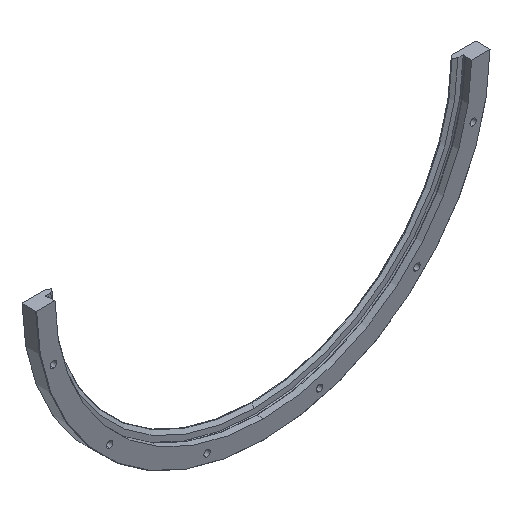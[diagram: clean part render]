
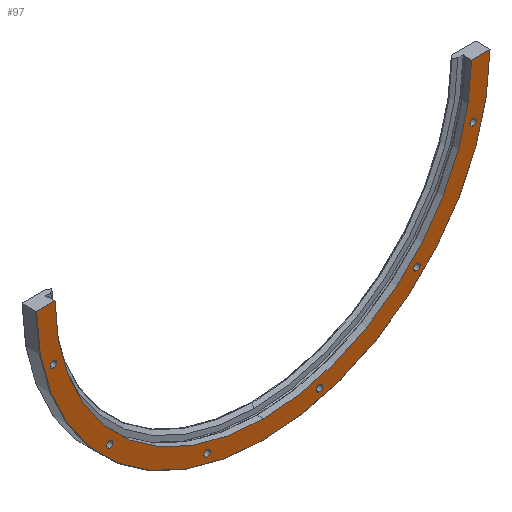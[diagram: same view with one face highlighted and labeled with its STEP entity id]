
A CAD part, isometric view. The second image highlights one B-rep face of the part: STEP entity #97.
In plain terms, the highlighted planar face has unit normal (0, -1, 0).
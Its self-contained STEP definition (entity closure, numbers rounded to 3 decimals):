
#97=ADVANCED_FACE('',(#174,#175,#176,#177,#178,#179,#180),#181,.T.);
#174=FACE_OUTER_BOUND('',#300,.T.);
#175=FACE_BOUND('',#301,.T.);
#176=FACE_BOUND('',#302,.T.);
#177=FACE_BOUND('',#303,.T.);
#178=FACE_BOUND('',#304,.T.);
#179=FACE_BOUND('',#305,.T.);
#180=FACE_BOUND('',#306,.T.);
#181=PLANE('',#307);
#300=EDGE_LOOP('',(#536,#537,#538,#539,#540,#541));
#301=EDGE_LOOP('',(#542,#543));
#302=EDGE_LOOP('',(#544,#545));
#303=EDGE_LOOP('',(#546,#547));
#304=EDGE_LOOP('',(#548,#549));
#305=EDGE_LOOP('',(#550,#551));
#306=EDGE_LOOP('',(#552,#553));
#307=AXIS2_PLACEMENT_3D('',#554,#555,#556);
#536=ORIENTED_EDGE('',*,*,#893,.F.);
#537=ORIENTED_EDGE('',*,*,#829,.T.);
#538=ORIENTED_EDGE('',*,*,#894,.T.);
#539=ORIENTED_EDGE('',*,*,#895,.F.);
#540=ORIENTED_EDGE('',*,*,#896,.F.);
#541=ORIENTED_EDGE('',*,*,#813,.F.);
#542=ORIENTED_EDGE('',*,*,#897,.T.);
#543=ORIENTED_EDGE('',*,*,#842,.T.);
#544=ORIENTED_EDGE('',*,*,#898,.T.);
#545=ORIENTED_EDGE('',*,*,#850,.T.);
#546=ORIENTED_EDGE('',*,*,#899,.T.);
#547=ORIENTED_EDGE('',*,*,#858,.T.);
#548=ORIENTED_EDGE('',*,*,#900,.T.);
#549=ORIENTED_EDGE('',*,*,#882,.T.);
#550=ORIENTED_EDGE('',*,*,#901,.T.);
#551=ORIENTED_EDGE('',*,*,#874,.T.);
#552=ORIENTED_EDGE('',*,*,#902,.T.);
#553=ORIENTED_EDGE('',*,*,#866,.T.);
#554=CARTESIAN_POINT('',(-240.75,-12.325,0.0));
#555=DIRECTION('',(0.0,-1.0,0.0));
#556=DIRECTION('',(0.0,0.0,-1.0));
#813=EDGE_CURVE('',#948,#944,#950,.T.);
#829=EDGE_CURVE('',#980,#977,#981,.T.);
#842=EDGE_CURVE('',#1003,#1004,#1005,.T.);
#850=EDGE_CURVE('',#1019,#1020,#1021,.T.);
#858=EDGE_CURVE('',#1035,#1036,#1037,.T.);
#866=EDGE_CURVE('',#1051,#1052,#1053,.T.);
#874=EDGE_CURVE('',#1067,#1068,#1069,.T.);
#882=EDGE_CURVE('',#1083,#1084,#1085,.T.);
#893=EDGE_CURVE('',#980,#948,#1103,.T.);
#894=EDGE_CURVE('',#977,#1104,#1105,.T.);
#895=EDGE_CURVE('',#1106,#1104,#1107,.T.);
#896=EDGE_CURVE('',#944,#1106,#1108,.T.);
#897=EDGE_CURVE('',#1004,#1003,#1109,.T.);
#898=EDGE_CURVE('',#1020,#1019,#1110,.T.);
#899=EDGE_CURVE('',#1036,#1035,#1111,.T.);
#900=EDGE_CURVE('',#1084,#1083,#1112,.T.);
#901=EDGE_CURVE('',#1068,#1067,#1113,.T.);
#902=EDGE_CURVE('',#1052,#1051,#1114,.T.);
#944=VERTEX_POINT('',#1164);
#948=VERTEX_POINT('',#1169);
#950=CIRCLE('',#1174,240.75);
#977=VERTEX_POINT('',#1214);
#980=VERTEX_POINT('',#1218);
#981=CIRCLE('',#1219,221.25);
#1003=VERTEX_POINT('',#1254);
#1004=VERTEX_POINT('',#1255);
#1005=CIRCLE('',#1256,3.4);
#1019=VERTEX_POINT('',#1274);
#1020=VERTEX_POINT('',#1275);
#1021=CIRCLE('',#1276,3.4);
#1035=VERTEX_POINT('',#1294);
#1036=VERTEX_POINT('',#1295);
#1037=CIRCLE('',#1296,3.4);
#1051=VERTEX_POINT('',#1314);
#1052=VERTEX_POINT('',#1315);
#1053=CIRCLE('',#1316,3.4);
#1067=VERTEX_POINT('',#1334);
#1068=VERTEX_POINT('',#1335);
#1069=CIRCLE('',#1336,3.4);
#1083=VERTEX_POINT('',#1354);
#1084=VERTEX_POINT('',#1355);
#1085=CIRCLE('',#1356,3.4);
#1103=LINE('',#1384,#1385);
#1104=VERTEX_POINT('',#1386);
#1105=CIRCLE('',#1387,221.25);
#1106=VERTEX_POINT('',#1388);
#1107=LINE('',#1389,#1390);
#1108=CIRCLE('',#1391,240.75);
#1109=CIRCLE('',#1392,3.4);
#1110=CIRCLE('',#1393,3.4);
#1111=CIRCLE('',#1394,3.4);
#1112=CIRCLE('',#1395,3.4);
#1113=CIRCLE('',#1396,3.4);
#1114=CIRCLE('',#1397,3.4);
#1164=CARTESIAN_POINT('',(0.,-12.325,-240.75));
#1169=CARTESIAN_POINT('',(240.742,-12.325,-2.0));
#1174=AXIS2_PLACEMENT_3D('',#1476,#1477,#1478);
#1214=CARTESIAN_POINT('',(0.,-12.325,-221.25));
#1218=CARTESIAN_POINT('',(221.241,-12.325,-2.0));
#1219=AXIS2_PLACEMENT_3D('',#1506,#1507,#1508);
#1254=CARTESIAN_POINT('',(222.887,-12.325,-63.122));
#1255=CARTESIAN_POINT('',(222.887,-12.325,-56.322));
#1256=AXIS2_PLACEMENT_3D('',#1533,#1534,#1535);
#1274=CARTESIAN_POINT('',(163.165,-12.325,-166.565));
#1275=CARTESIAN_POINT('',(163.165,-12.325,-159.765));
#1276=AXIS2_PLACEMENT_3D('',#1549,#1550,#1551);
#1294=CARTESIAN_POINT('',(59.722,-12.325,-226.287));
#1295=CARTESIAN_POINT('',(59.722,-12.325,-219.487));
#1296=AXIS2_PLACEMENT_3D('',#1565,#1566,#1567);
#1314=CARTESIAN_POINT('',(-59.722,-12.325,-226.287));
#1315=CARTESIAN_POINT('',(-59.722,-12.325,-219.487));
#1316=AXIS2_PLACEMENT_3D('',#1581,#1582,#1583);
#1334=CARTESIAN_POINT('',(-163.165,-12.325,-166.565));
#1335=CARTESIAN_POINT('',(-163.165,-12.325,-159.765));
#1336=AXIS2_PLACEMENT_3D('',#1597,#1598,#1599);
#1354=CARTESIAN_POINT('',(-222.887,-12.325,-63.122));
#1355=CARTESIAN_POINT('',(-222.887,-12.325,-56.322));
#1356=AXIS2_PLACEMENT_3D('',#1613,#1614,#1615);
#1384=CARTESIAN_POINT('',(29.933,-12.325,-2.0));
#1385=VECTOR('',#1632,1000.0);
#1386=CARTESIAN_POINT('',(-221.241,-12.325,-2.0));
#1387=AXIS2_PLACEMENT_3D('',#1633,#1634,#1635);
#1388=CARTESIAN_POINT('',(-240.742,-12.325,-2.0));
#1389=CARTESIAN_POINT('',(-999.998,-12.325,-2.0));
#1390=VECTOR('',#1636,1000.0);
#1391=AXIS2_PLACEMENT_3D('',#1637,#1638,#1639);
#1392=AXIS2_PLACEMENT_3D('',#1640,#1641,#1642);
#1393=AXIS2_PLACEMENT_3D('',#1643,#1644,#1645);
#1394=AXIS2_PLACEMENT_3D('',#1646,#1647,#1648);
#1395=AXIS2_PLACEMENT_3D('',#1649,#1650,#1651);
#1396=AXIS2_PLACEMENT_3D('',#1652,#1653,#1654);
#1397=AXIS2_PLACEMENT_3D('',#1655,#1656,#1657);
#1476=CARTESIAN_POINT('',(0.0,-12.325,0.0));
#1477=DIRECTION('',(-0.0,1.0,0.0));
#1478=DIRECTION('',(0.0,0.0,1.0));
#1506=CARTESIAN_POINT('',(0.0,-12.325,0.0));
#1507=DIRECTION('',(-0.0,1.0,0.0));
#1508=DIRECTION('',(0.0,0.0,1.0));
#1533=CARTESIAN_POINT('',(222.887,-12.325,-59.722));
#1534=DIRECTION('',(-0.0,1.0,0.0));
#1535=DIRECTION('',(0.0,0.0,1.0));
#1549=CARTESIAN_POINT('',(163.165,-12.325,-163.165));
#1550=DIRECTION('',(-0.0,1.0,0.0));
#1551=DIRECTION('',(0.0,0.0,1.0));
#1565=CARTESIAN_POINT('',(59.722,-12.325,-222.887));
#1566=DIRECTION('',(-0.0,1.0,0.0));
#1567=DIRECTION('',(0.0,0.0,1.0));
#1581=CARTESIAN_POINT('',(-59.722,-12.325,-222.887));
#1582=DIRECTION('',(-0.0,1.0,0.0));
#1583=DIRECTION('',(0.0,0.0,1.0));
#1597=CARTESIAN_POINT('',(-163.165,-12.325,-163.165));
#1598=DIRECTION('',(-0.0,1.0,0.0));
#1599=DIRECTION('',(0.0,0.0,1.0));
#1613=CARTESIAN_POINT('',(-222.887,-12.325,-59.722));
#1614=DIRECTION('',(-0.0,1.0,0.0));
#1615=DIRECTION('',(0.0,0.0,1.0));
#1632=DIRECTION('',(1.0,0.0,0.0));
#1633=CARTESIAN_POINT('',(0.0,-12.325,0.0));
#1634=DIRECTION('',(-0.0,1.0,0.0));
#1635=DIRECTION('',(0.0,0.0,1.0));
#1636=DIRECTION('',(1.0,0.0,0.0));
#1637=CARTESIAN_POINT('',(0.0,-12.325,0.0));
#1638=DIRECTION('',(-0.0,1.0,0.0));
#1639=DIRECTION('',(0.0,0.0,1.0));
#1640=CARTESIAN_POINT('',(222.887,-12.325,-59.722));
#1641=DIRECTION('',(-0.0,1.0,0.0));
#1642=DIRECTION('',(0.0,0.0,1.0));
#1643=CARTESIAN_POINT('',(163.165,-12.325,-163.165));
#1644=DIRECTION('',(-0.0,1.0,0.0));
#1645=DIRECTION('',(0.0,0.0,1.0));
#1646=CARTESIAN_POINT('',(59.722,-12.325,-222.887));
#1647=DIRECTION('',(-0.0,1.0,0.0));
#1648=DIRECTION('',(0.0,0.0,1.0));
#1649=CARTESIAN_POINT('',(-222.887,-12.325,-59.722));
#1650=DIRECTION('',(-0.0,1.0,0.0));
#1651=DIRECTION('',(0.0,0.0,1.0));
#1652=CARTESIAN_POINT('',(-163.165,-12.325,-163.165));
#1653=DIRECTION('',(-0.0,1.0,0.0));
#1654=DIRECTION('',(0.0,0.0,1.0));
#1655=CARTESIAN_POINT('',(-59.722,-12.325,-222.887));
#1656=DIRECTION('',(-0.0,1.0,0.0));
#1657=DIRECTION('',(0.0,0.0,1.0));
